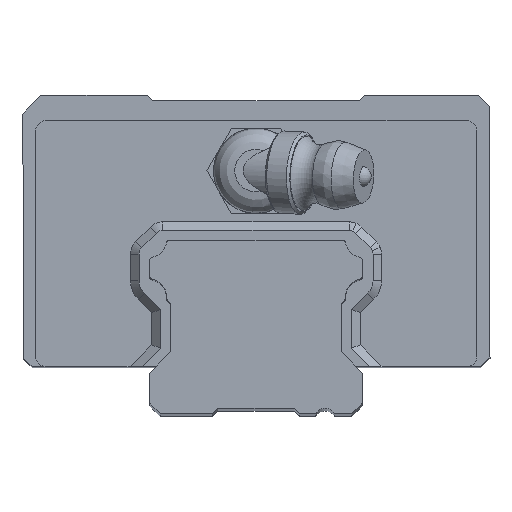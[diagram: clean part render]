
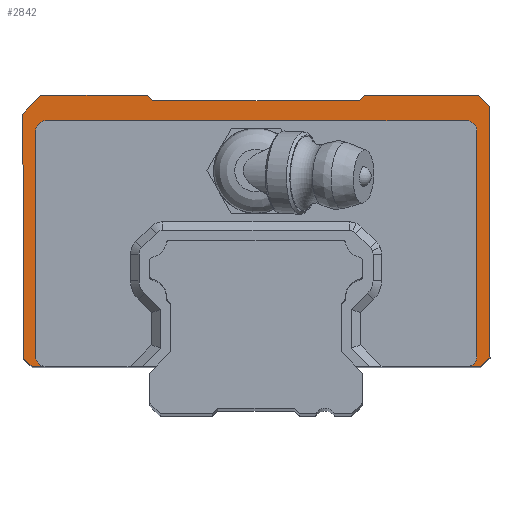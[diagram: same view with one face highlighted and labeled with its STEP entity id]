
A CAD part, top view. The second image highlights one B-rep face of the part: STEP entity #2842.
In plain terms, the highlighted planar face has unit normal (0, 0, 1).
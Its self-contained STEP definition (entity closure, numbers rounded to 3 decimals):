
#2381=CARTESIAN_POINT('',(35.855,-59.323,23.29));
#2382=VERTEX_POINT('',#2381);
#2657=CARTESIAN_POINT('',(15.994,-86.271,23.29));
#2658=DIRECTION('',(0.0,0.0,1.0));
#2659=DIRECTION('',(1.,0.,0.0));
#2660=AXIS2_PLACEMENT_3D('',#2657,#2658,#2659);
#2661=PLANE('',#2660);
#2662=CARTESIAN_POINT('',(-3.805,-59.323,23.29));
#2663=VERTEX_POINT('',#2662);
#2664=CARTESIAN_POINT('',(-4.705,-58.423,23.29));
#2665=VERTEX_POINT('',#2664);
#2666=CARTESIAN_POINT('',(-3.805,-58.423,23.29));
#2667=DIRECTION('',(0.0,0.0,-1.0));
#2668=DIRECTION('',(-1.,0.,0.0));
#2669=AXIS2_PLACEMENT_3D('',#2666,#2667,#2668);
#2670=CIRCLE('',#2669,0.9);
#2671=EDGE_CURVE('',#2663,#2665,#2670,.T.);
#2672=ORIENTED_EDGE('',*,*,#2671,.T.);
#2673=CARTESIAN_POINT('',(-4.705,-37.123,23.29));
#2674=VERTEX_POINT('',#2673);
#2675=CARTESIAN_POINT('',(-4.705,-58.423,23.29));
#2676=DIRECTION('',(0.,1.0,0.0));
#2677=VECTOR('',#2676,21.3);
#2678=LINE('',#2675,#2677);
#2679=EDGE_CURVE('',#2665,#2674,#2678,.T.);
#2680=ORIENTED_EDGE('',*,*,#2679,.T.);
#2681=CARTESIAN_POINT('',(-3.805,-36.223,23.29));
#2682=VERTEX_POINT('',#2681);
#2683=CARTESIAN_POINT('',(-3.805,-37.123,23.29));
#2684=DIRECTION('',(0.0,0.0,-1.));
#2685=DIRECTION('',(-1.,0.,0.0));
#2686=AXIS2_PLACEMENT_3D('',#2683,#2684,#2685);
#2687=CIRCLE('',#2686,0.9);
#2688=EDGE_CURVE('',#2674,#2682,#2687,.T.);
#2689=ORIENTED_EDGE('',*,*,#2688,.T.);
#2690=CARTESIAN_POINT('',(35.845,-36.223,23.29));
#2691=VERTEX_POINT('',#2690);
#2692=CARTESIAN_POINT('',(-3.805,-36.223,23.29));
#2693=DIRECTION('',(1.0,0.0,0.0));
#2694=VECTOR('',#2693,39.65);
#2695=LINE('',#2692,#2694);
#2696=EDGE_CURVE('',#2682,#2691,#2695,.T.);
#2697=ORIENTED_EDGE('',*,*,#2696,.T.);
#2698=CARTESIAN_POINT('',(36.745,-37.123,23.29));
#2699=VERTEX_POINT('',#2698);
#2700=CARTESIAN_POINT('',(35.845,-37.123,23.29));
#2701=DIRECTION('',(0.0,0.0,-1.0));
#2702=DIRECTION('',(-1.,0.,0.0));
#2703=AXIS2_PLACEMENT_3D('',#2700,#2701,#2702);
#2704=CIRCLE('',#2703,0.9);
#2705=EDGE_CURVE('',#2691,#2699,#2704,.T.);
#2706=ORIENTED_EDGE('',*,*,#2705,.T.);
#2707=CARTESIAN_POINT('',(36.745,-58.423,23.29));
#2708=VERTEX_POINT('',#2707);
#2709=CARTESIAN_POINT('',(36.745,-37.123,23.29));
#2710=DIRECTION('',(0.,-1.0,0.0));
#2711=VECTOR('',#2710,21.3);
#2712=LINE('',#2709,#2711);
#2713=EDGE_CURVE('',#2699,#2708,#2712,.T.);
#2714=ORIENTED_EDGE('',*,*,#2713,.T.);
#2715=CARTESIAN_POINT('',(35.845,-58.423,23.29));
#2716=DIRECTION('',(0.0,0.0,-1.0));
#2717=DIRECTION('',(-1.,0.,0.0));
#2718=AXIS2_PLACEMENT_3D('',#2715,#2716,#2717);
#2719=CIRCLE('',#2718,0.9);
#2720=EDGE_CURVE('',#2708,#2382,#2719,.T.);
#2721=ORIENTED_EDGE('',*,*,#2720,.T.);
#2722=CARTESIAN_POINT('',(37.144,-59.323,23.29));
#2723=VERTEX_POINT('',#2722);
#2724=CARTESIAN_POINT('',(35.855,-59.323,23.29));
#2725=DIRECTION('',(1.,0.,0.));
#2726=VECTOR('',#2725,1.289);
#2727=LINE('',#2724,#2726);
#2728=EDGE_CURVE('',#2382,#2723,#2727,.T.);
#2729=ORIENTED_EDGE('',*,*,#2728,.T.);
#2730=CARTESIAN_POINT('',(37.994,-58.473,23.29));
#2731=VERTEX_POINT('',#2730);
#2732=CARTESIAN_POINT('',(37.144,-59.323,23.29));
#2733=DIRECTION('',(0.707,0.707,0.0));
#2734=VECTOR('',#2733,1.202);
#2735=LINE('',#2732,#2734);
#2736=EDGE_CURVE('',#2723,#2731,#2735,.T.);
#2737=ORIENTED_EDGE('',*,*,#2736,.T.);
#2738=CARTESIAN_POINT('',(37.994,-34.873,23.29));
#2739=VERTEX_POINT('',#2738);
#2740=CARTESIAN_POINT('',(37.994,-58.473,23.29));
#2741=DIRECTION('',(0.,1.,0.0));
#2742=VECTOR('',#2741,23.6);
#2743=LINE('',#2740,#2742);
#2744=EDGE_CURVE('',#2731,#2739,#2743,.T.);
#2745=ORIENTED_EDGE('',*,*,#2744,.T.);
#2746=CARTESIAN_POINT('',(36.944,-33.823,23.29));
#2747=VERTEX_POINT('',#2746);
#2748=CARTESIAN_POINT('',(37.994,-34.873,23.29));
#2749=DIRECTION('',(-0.707,0.707,0.0));
#2750=VECTOR('',#2749,1.485);
#2751=LINE('',#2748,#2750);
#2752=EDGE_CURVE('',#2739,#2747,#2751,.T.);
#2753=ORIENTED_EDGE('',*,*,#2752,.T.);
#2754=CARTESIAN_POINT('',(26.194,-33.823,23.29));
#2755=VERTEX_POINT('',#2754);
#2756=CARTESIAN_POINT('',(36.944,-33.823,23.29));
#2757=DIRECTION('',(-1.,0.,0.0));
#2758=VECTOR('',#2757,10.75);
#2759=LINE('',#2756,#2758);
#2760=EDGE_CURVE('',#2747,#2755,#2759,.T.);
#2761=ORIENTED_EDGE('',*,*,#2760,.T.);
#2762=CARTESIAN_POINT('',(25.694,-34.323,23.29));
#2763=VERTEX_POINT('',#2762);
#2764=CARTESIAN_POINT('',(25.694,-34.323,23.29));
#2765=DIRECTION('',(0.707,0.707,0.0));
#2766=VECTOR('',#2765,0.707);
#2767=LINE('',#2764,#2766);
#2768=EDGE_CURVE('',#2763,#2755,#2767,.T.);
#2769=ORIENTED_EDGE('',*,*,#2768,.F.);
#2770=CARTESIAN_POINT('',(6.294,-34.323,23.29));
#2771=VERTEX_POINT('',#2770);
#2772=CARTESIAN_POINT('',(25.694,-34.323,23.29));
#2773=DIRECTION('',(-1.,0.,0.0));
#2774=VECTOR('',#2773,19.4);
#2775=LINE('',#2772,#2774);
#2776=EDGE_CURVE('',#2763,#2771,#2775,.T.);
#2777=ORIENTED_EDGE('',*,*,#2776,.T.);
#2778=CARTESIAN_POINT('',(5.794,-33.823,23.29));
#2779=VERTEX_POINT('',#2778);
#2780=CARTESIAN_POINT('',(6.294,-34.323,23.29));
#2781=DIRECTION('',(-0.707,0.707,0.0));
#2782=VECTOR('',#2781,0.707);
#2783=LINE('',#2780,#2782);
#2784=EDGE_CURVE('',#2771,#2779,#2783,.T.);
#2785=ORIENTED_EDGE('',*,*,#2784,.T.);
#2786=CARTESIAN_POINT('',(-4.256,-33.823,23.29));
#2787=VERTEX_POINT('',#2786);
#2788=CARTESIAN_POINT('',(-4.256,-33.823,23.29));
#2789=DIRECTION('',(1.,0.,0.0));
#2790=VECTOR('',#2789,10.05);
#2791=LINE('',#2788,#2790);
#2792=EDGE_CURVE('',#2787,#2779,#2791,.T.);
#2793=ORIENTED_EDGE('',*,*,#2792,.F.);
#2794=CARTESIAN_POINT('',(-6.006,-35.573,23.29));
#2795=VERTEX_POINT('',#2794);
#2796=CARTESIAN_POINT('',(-6.006,-35.573,23.29));
#2797=DIRECTION('',(0.707,0.707,0.0));
#2798=VECTOR('',#2797,2.475);
#2799=LINE('',#2796,#2798);
#2800=EDGE_CURVE('',#2795,#2787,#2799,.T.);
#2801=ORIENTED_EDGE('',*,*,#2800,.F.);
#2802=CARTESIAN_POINT('',(-6.006,-40.223,23.29));
#2803=VERTEX_POINT('',#2802);
#2804=CARTESIAN_POINT('',(-6.006,-40.223,23.29));
#2805=DIRECTION('',(0.,1.,0.0));
#2806=VECTOR('',#2805,4.65);
#2807=LINE('',#2804,#2806);
#2808=EDGE_CURVE('',#2803,#2795,#2807,.T.);
#2809=ORIENTED_EDGE('',*,*,#2808,.F.);
#2810=CARTESIAN_POINT('',(-5.856,-40.373,23.29));
#2811=VERTEX_POINT('',#2810);
#2812=CARTESIAN_POINT('',(-5.856,-40.373,23.29));
#2813=DIRECTION('',(-0.707,0.707,0.0));
#2814=VECTOR('',#2813,0.212);
#2815=LINE('',#2812,#2814);
#2816=EDGE_CURVE('',#2811,#2803,#2815,.T.);
#2817=ORIENTED_EDGE('',*,*,#2816,.F.);
#2818=CARTESIAN_POINT('',(-5.856,-58.523,23.29));
#2819=VERTEX_POINT('',#2818);
#2820=CARTESIAN_POINT('',(-5.856,-58.523,23.29));
#2821=DIRECTION('',(0.,1.,0.0));
#2822=VECTOR('',#2821,18.15);
#2823=LINE('',#2820,#2822);
#2824=EDGE_CURVE('',#2819,#2811,#2823,.T.);
#2825=ORIENTED_EDGE('',*,*,#2824,.F.);
#2826=CARTESIAN_POINT('',(-5.056,-59.323,23.29));
#2827=VERTEX_POINT('',#2826);
#2828=CARTESIAN_POINT('',(-5.856,-58.523,23.29));
#2829=DIRECTION('',(0.707,-0.707,0.0));
#2830=VECTOR('',#2829,1.131);
#2831=LINE('',#2828,#2830);
#2832=EDGE_CURVE('',#2819,#2827,#2831,.T.);
#2833=ORIENTED_EDGE('',*,*,#2832,.T.);
#2834=CARTESIAN_POINT('',(-5.056,-59.323,23.29));
#2835=DIRECTION('',(1.,0.,0.));
#2836=VECTOR('',#2835,1.251);
#2837=LINE('',#2834,#2836);
#2838=EDGE_CURVE('',#2827,#2663,#2837,.T.);
#2839=ORIENTED_EDGE('',*,*,#2838,.T.);
#2840=EDGE_LOOP('',(#2672,#2680,#2689,#2697,#2706,#2714,#2721,#2729,#2737,#2745,#2753,#2761,#2769,#2777,#2785,#2793,#2801,#2809,#2817,#2825,#2833,#2839));
#2841=FACE_OUTER_BOUND('',#2840,.T.);
#2842=ADVANCED_FACE('',(#2841),#2661,.T.);
